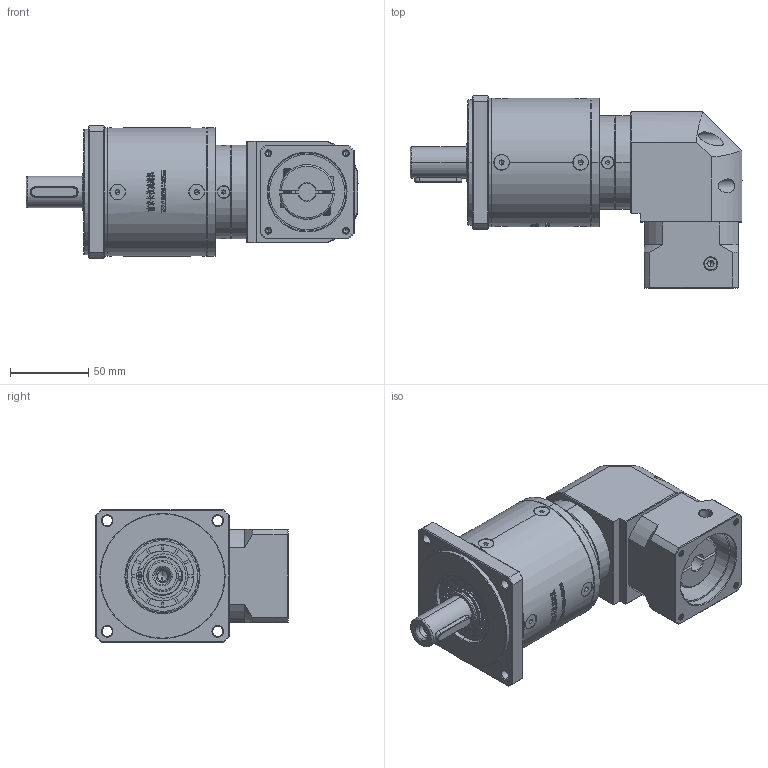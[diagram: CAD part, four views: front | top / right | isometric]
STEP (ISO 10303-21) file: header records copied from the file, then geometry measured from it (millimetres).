
FILE_DESCRIPTION (( 'STEP AP214' ), '1' );
FILE_NAME ('ZFR80-D20-L3-11-50-70-M4.step', '2022-05-08T14:50:34', ( '' ), ( 'Microsoft' ), 'SwSTEP 2.0', 'SolidWorks 2016', '' );
FILE_SCHEMA (( 'AUTOMOTIVE_DESIGN' ));
Length unit declared in the file: millimetre
Products named in the file (1): ZFR80-D20-L3-11-50-70-M4
Bounding box: 212 x 122.7 x 85 mm (x, y, z)
Volume: 888520.6 mm3; surface area: 107458.4 mm2
Topology: 17 solids, 18 shells, 3070 faces, 8193 edges, 5280 vertices
Faces by surface type: plane 1601, bspline 608, cylinder 460, cone 381, torus 20
Entity records: 163340 total; most frequent: CARTESIAN_POINT 58321, ORIENTED_EDGE 16294, DIRECTION 12430, EDGE_CURVE 8147, VERTEX_POINT 5280, LINE 4968, VECTOR 4968, AXIS2_PLACEMENT_3D 3731
